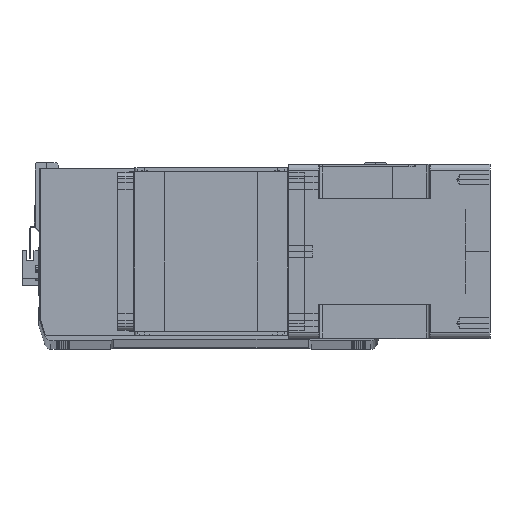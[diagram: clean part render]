
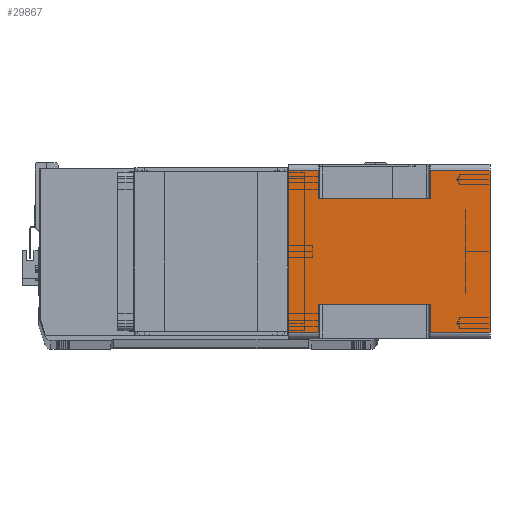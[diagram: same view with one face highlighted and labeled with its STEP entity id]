
A CAD part, top view. The second image highlights one B-rep face of the part: STEP entity #29867.
In plain terms, the highlighted planar face has unit normal (0, 0, 1) as drawn and (1, 0, 0) by its records, which use the part's own axes.
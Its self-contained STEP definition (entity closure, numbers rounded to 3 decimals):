
#313 = AXIS2_PLACEMENT_3D ( 'NONE', #17848, #11970, #9126 ) ;
#518 = CARTESIAN_POINT ( 'NONE',  ( 71., 66., -164. ) ) ;
#1113 = EDGE_CURVE ( 'NONE', #18339, #20597, #25070, .T. ) ;
#3066 = EDGE_CURVE ( 'NONE', #6722, #20516, #5687, .T. ) ;
#3236 = PLANE ( 'NONE',  #313 ) ;
#3941 = CARTESIAN_POINT ( 'NONE',  ( 71., -66., -164. ) ) ;
#4222 = VECTOR ( 'NONE', #32943, 1000. ) ;
#4911 = EDGE_CURVE ( 'NONE', #8447, #20516, #27041, .T. ) ;
#5515 = CARTESIAN_POINT ( 'NONE',  ( 71., -43., -164. ) ) ;
#5687 = LINE ( 'NONE', #8485, #24018 ) ;
#5910 = DIRECTION ( 'NONE',  ( 0., 0., -1. ) ) ;
#6441 = ORIENTED_EDGE ( 'NONE', *, *, #14636, .F. ) ;
#6722 = VERTEX_POINT ( 'NONE', #25380 ) ;
#7320 = CARTESIAN_POINT ( 'NONE',  ( 71., -43., -115.5 ) ) ;
#8079 = CARTESIAN_POINT ( 'NONE',  ( 71., 66., 0. ) ) ;
#8268 = ORIENTED_EDGE ( 'NONE', *, *, #30564, .F. ) ;
#8365 = CARTESIAN_POINT ( 'NONE',  ( 71., 43., -164. ) ) ;
#8420 = ORIENTED_EDGE ( 'NONE', *, *, #18317, .T. ) ;
#8447 = VERTEX_POINT ( 'NONE', #7320 ) ;
#8485 = CARTESIAN_POINT ( 'NONE',  ( 71., -66., -164. ) ) ;
#8833 = ORIENTED_EDGE ( 'NONE', *, *, #12132, .T. ) ;
#9126 = DIRECTION ( 'NONE',  ( 0., 1., 0. ) ) ;
#9239 = EDGE_CURVE ( 'NONE', #14208, #20597, #10197, .T. ) ;
#9691 = DIRECTION ( 'NONE',  ( 0., 0., 1. ) ) ;
#9853 = DIRECTION ( 'NONE',  ( 0., 1., 0. ) ) ;
#9855 = LINE ( 'NONE', #3941, #10287 ) ;
#9961 = ORIENTED_EDGE ( 'NONE', *, *, #24842, .T. ) ;
#10077 = CARTESIAN_POINT ( 'NONE',  ( 71., 66., -24.5 ) ) ;
#10197 = LINE ( 'NONE', #15583, #28532 ) ;
#10287 = VECTOR ( 'NONE', #29954, 1000. ) ;
#10892 = LINE ( 'NONE', #5515, #21232 ) ;
#11049 = CARTESIAN_POINT ( 'NONE',  ( 71., 66., -115.5 ) ) ;
#11207 = ORIENTED_EDGE ( 'NONE', *, *, #31036, .F. ) ;
#11401 = ORIENTED_EDGE ( 'NONE', *, *, #4911, .T. ) ;
#11792 = VECTOR ( 'NONE', #36251, 1000. ) ;
#11970 = DIRECTION ( 'NONE',  ( 1., 0., 0. ) ) ;
#12132 = EDGE_CURVE ( 'NONE', #17821, #12824, #23377, .T. ) ;
#12422 = ORIENTED_EDGE ( 'NONE', *, *, #23791, .T. ) ;
#12824 = VERTEX_POINT ( 'NONE', #16848 ) ;
#14208 = VERTEX_POINT ( 'NONE', #11049 ) ;
#14636 = EDGE_CURVE ( 'NONE', #8447, #12824, #10892, .T. ) ;
#15583 = CARTESIAN_POINT ( 'NONE',  ( 71., 43., -115.5 ) ) ;
#15877 = CARTESIAN_POINT ( 'NONE',  ( 71., -66., 0. ) ) ;
#15878 = CARTESIAN_POINT ( 'NONE',  ( 71., -66., -115.5 ) ) ;
#16506 = CARTESIAN_POINT ( 'NONE',  ( 71., 43., -115.5 ) ) ;
#16848 = CARTESIAN_POINT ( 'NONE',  ( 71., -43., -24.5 ) ) ;
#16999 = CARTESIAN_POINT ( 'NONE',  ( 71., -66., -24.5 ) ) ;
#17459 = VECTOR ( 'NONE', #5910, 1000. ) ;
#17821 = VERTEX_POINT ( 'NONE', #23257 ) ;
#17848 = CARTESIAN_POINT ( 'NONE',  ( 71., -66., -164. ) ) ;
#18317 = EDGE_CURVE ( 'NONE', #6722, #32191, #23847, .T. ) ;
#18339 = VERTEX_POINT ( 'NONE', #24002 ) ;
#18796 = VECTOR ( 'NONE', #28394, 1000. ) ;
#19226 = LINE ( 'NONE', #16999, #18796 ) ;
#19541 = LINE ( 'NONE', #32220, #36543 ) ;
#19832 = VERTEX_POINT ( 'NONE', #10077 ) ;
#19951 = DIRECTION ( 'NONE',  ( 0., 0., 1. ) ) ;
#20429 = ORIENTED_EDGE ( 'NONE', *, *, #3066, .F. ) ;
#20516 = VERTEX_POINT ( 'NONE', #15878 ) ;
#20558 = DIRECTION ( 'NONE',  ( 0., 0., 1. ) ) ;
#20597 = VERTEX_POINT ( 'NONE', #16506 ) ;
#20851 = EDGE_LOOP ( 'NONE', ( #6441, #11401, #20429, #8420, #12422, #23215, #27131, #22888, #9961, #11207, #8268, #8833 ) ) ;
#21023 = DIRECTION ( 'NONE',  ( 0., 1., 0. ) ) ;
#21232 = VECTOR ( 'NONE', #31727, 1000. ) ;
#22032 = VECTOR ( 'NONE', #21023, 1000. ) ;
#22888 = ORIENTED_EDGE ( 'NONE', *, *, #32203, .T. ) ;
#23215 = ORIENTED_EDGE ( 'NONE', *, *, #9239, .T. ) ;
#23257 = CARTESIAN_POINT ( 'NONE',  ( 71., -66., -24.5 ) ) ;
#23377 = LINE ( 'NONE', #23979, #32298 ) ;
#23791 = EDGE_CURVE ( 'NONE', #32191, #14208, #32691, .T. ) ;
#23847 = LINE ( 'NONE', #26995, #22032 ) ;
#23979 = CARTESIAN_POINT ( 'NONE',  ( 71., -43., -24.5 ) ) ;
#24002 = CARTESIAN_POINT ( 'NONE',  ( 71., 43., -24.5 ) ) ;
#24018 = VECTOR ( 'NONE', #19951, 1000. ) ;
#24842 = EDGE_CURVE ( 'NONE', #19832, #26042, #19541, .T. ) ;
#25070 = LINE ( 'NONE', #8365, #17459 ) ;
#25380 = CARTESIAN_POINT ( 'NONE',  ( 71., -66., -164. ) ) ;
#26042 = VERTEX_POINT ( 'NONE', #8079 ) ;
#26529 = CARTESIAN_POINT ( 'NONE',  ( 71., -66., 0. ) ) ;
#26995 = CARTESIAN_POINT ( 'NONE',  ( 71., -66., -164. ) ) ;
#27041 = LINE ( 'NONE', #29817, #4222 ) ;
#27096 = DIRECTION ( 'NONE',  ( 0., -1., 0. ) ) ;
#27131 = ORIENTED_EDGE ( 'NONE', *, *, #1113, .F. ) ;
#28394 = DIRECTION ( 'NONE',  ( 0., 1., 0. ) ) ;
#28532 = VECTOR ( 'NONE', #27096, 1000. ) ;
#29401 = VERTEX_POINT ( 'NONE', #26529 ) ;
#29817 = CARTESIAN_POINT ( 'NONE',  ( 71., -66., -115.5 ) ) ;
#29867 = ADVANCED_FACE ( 'NONE', ( #33236 ), #3236, .T. ) ;
#29954 = DIRECTION ( 'NONE',  ( 0., 0., 1. ) ) ;
#30564 = EDGE_CURVE ( 'NONE', #17821, #29401, #9855, .T. ) ;
#31036 = EDGE_CURVE ( 'NONE', #29401, #26042, #31954, .T. ) ;
#31727 = DIRECTION ( 'NONE',  ( 0., 0., 1. ) ) ;
#31954 = LINE ( 'NONE', #15877, #11792 ) ;
#32191 = VERTEX_POINT ( 'NONE', #37098 ) ;
#32203 = EDGE_CURVE ( 'NONE', #18339, #19832, #19226, .T. ) ;
#32220 = CARTESIAN_POINT ( 'NONE',  ( 71., 66., -164. ) ) ;
#32298 = VECTOR ( 'NONE', #9853, 1000. ) ;
#32691 = LINE ( 'NONE', #518, #36656 ) ;
#32943 = DIRECTION ( 'NONE',  ( 0., -1., 0. ) ) ;
#33236 = FACE_OUTER_BOUND ( 'NONE', #20851, .T. ) ;
#36251 = DIRECTION ( 'NONE',  ( 0., 1., 0. ) ) ;
#36543 = VECTOR ( 'NONE', #9691, 1000. ) ;
#36656 = VECTOR ( 'NONE', #20558, 1000. ) ;
#37098 = CARTESIAN_POINT ( 'NONE',  ( 71., 66., -164. ) ) ;
